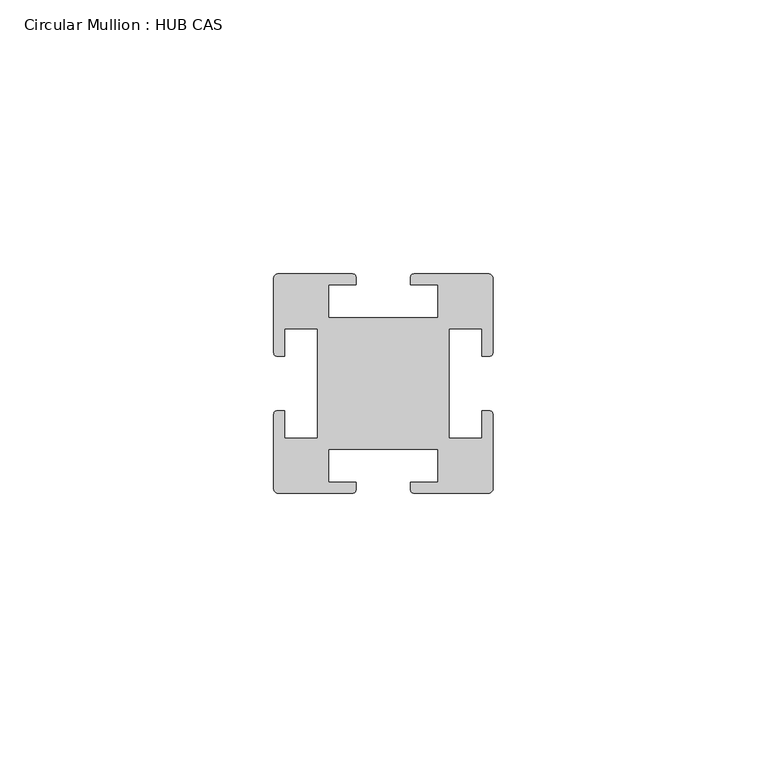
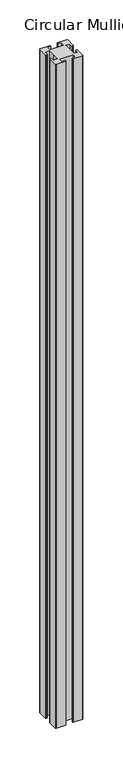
"""IFC4 building model written with IfcOpenShell, lengths in millimetres: member geometry, Circular Mullion : HUB CAS."""

from ifc_helpers import new_model, si_unit, point, frame, frame_2d, origin, place, context, project, spatial, polyline, circle_curve, trimmed, segment, composite_curve, outline, extrude, source, transform, mapped, element, save


def circular_mullion_hub_cas_7fad5990(model_context):
    return source(origin(), model_context, "Body", "SweptSolid", [
        extrude(outline(composite_curve([segment(polyline([(5.601076, 2.0892375), (19.298924, 2.0892375)]), True, "CONTINUOUS"), segment(trimmed(circle_curve(frame_2d((19.298924, 1.3892375)), 0.7), [point((19.298924, 2.0892375))], [point((19.998924, 1.3892375))], False, "CARTESIAN"), True, "CONTINUOUS"), segment(polyline([(19.998924, 1.3892375), (19.998924, -12.3107625)]), True, "CONTINUOUS"), segment(trimmed(circle_curve(frame_2d((19.398924, -12.3107625)), 0.6), [point((19.998924, -12.3107625))], [point((19.398924, -12.9107625))], False, "CARTESIAN"), True, "CONTINUOUS"), segment(polyline([(19.398924, -12.9107625), (17.998924, -12.9107625), (17.998924, -7.9107625), (11.998924, -7.9107625), (11.998924, -17.9107625), (11.998924, -27.9107625), (17.998924, -27.9107625), (17.998924, -22.9107625), (19.398924, -22.9107625)]), True, "CONTINUOUS"), segment(trimmed(circle_curve(frame_2d((19.398924, -23.5107625)), 0.6), [point((19.398924, -22.9107625))], [point((19.998924, -23.5107625))], False, "CARTESIAN"), True, "CONTINUOUS"), segment(polyline([(19.998924, -23.5107625), (19.998924, -37.2107625)]), True, "CONTINUOUS"), segment(trimmed(circle_curve(frame_2d((19.298924, -37.2107625)), 0.7), [point((19.998924, -37.2107625))], [point((19.298924, -37.9107625))], False, "CARTESIAN"), True, "CONTINUOUS"), segment(polyline([(19.298924, -37.9107625), (5.601076, -37.9107625)]), True, "CONTINUOUS"), segment(trimmed(circle_curve(frame_2d((5.601076, -37.3107625)), 0.6), [point((5.601076, -37.9107625))], [point((5.001076, -37.3107625))], False, "CARTESIAN"), True, "CONTINUOUS"), segment(polyline([(5.001076, -37.3107625), (5.001076, -35.910257), (9.998924, -35.910257), (9.998924, -29.9107625), (-9.998924, -29.9107625), (-9.998924, -35.910257), (-5.001076, -35.910257), (-5.001076, -37.3107625)]), True, "CONTINUOUS"), segment(trimmed(circle_curve(frame_2d((-5.601076, -37.3107625)), 0.6), [point((-5.001076, -37.3107625))], [point((-5.601076, -37.9107625))], False, "CARTESIAN"), True, "CONTINUOUS"), segment(polyline([(-5.601076, -37.9107625), (-19.298924, -37.9107625)]), True, "CONTINUOUS"), segment(trimmed(circle_curve(frame_2d((-19.298924, -37.2107625)), 0.7), [point((-19.298924, -37.9107625))], [point((-19.998924, -37.2107625))], False, "CARTESIAN"), True, "CONTINUOUS"), segment(polyline([(-19.998924, -37.2107625), (-19.998924, -23.5107625)]), True, "CONTINUOUS"), segment(trimmed(circle_curve(frame_2d((-19.398924, -23.5107625)), 0.6), [point((-19.998924, -23.5107625))], [point((-19.398924, -22.9107625))], False, "CARTESIAN"), True, "CONTINUOUS"), segment(polyline([(-19.398924, -22.9107625), (-17.998924, -22.9107625), (-17.998924, -27.9107625), (-11.998924, -27.9107625), (-11.998924, -17.9107625), (-11.998924, -7.9107625), (-17.998924, -7.9107625), (-17.998924, -12.9107625), (-19.398924, -12.9107625)]), True, "CONTINUOUS"), segment(trimmed(circle_curve(frame_2d((-19.398924, -12.3107625)), 0.6), [point((-19.398924, -12.9107625))], [point((-19.998924, -12.3107625))], False, "CARTESIAN"), True, "CONTINUOUS"), segment(polyline([(-19.998924, -12.3107625), (-19.998924, 1.3892375)]), True, "CONTINUOUS"), segment(trimmed(circle_curve(frame_2d((-19.298924, 1.3892375)), 0.7), [point((-19.998924, 1.3892375))], [point((-19.298924, 2.0892375))], False, "CARTESIAN"), True, "CONTINUOUS"), segment(polyline([(-19.298924, 2.0892375), (-5.601076, 2.0892375)]), True, "CONTINUOUS"), segment(trimmed(circle_curve(frame_2d((-5.601076, 1.4892375)), 0.6), [point((-5.601076, 2.0892375))], [point((-5.001076, 1.4892375))], False, "CARTESIAN"), True, "CONTINUOUS"), segment(polyline([(-5.001076, 1.4892375), (-5.001076, 0.0887321), (-9.998924, 0.0887321), (-9.998924, -5.9107625), (9.998924, -5.9107625), (9.998924, 0.0887321), (5.001076, 0.0887321), (5.001076, 1.4892375)]), True, "CONTINUOUS"), segment(trimmed(circle_curve(frame_2d((5.601076, 1.4892375)), 0.6), [point((5.001076, 1.4892375))], [point((5.601076, 2.0892375))], False, "CARTESIAN"), True, "CONTINUOUS")], self_intersect=False)), frame((0.0, 0.0, -1020.0010757), z_axis=(0.0, 0.0, 1.0), x_axis=(1.0, 0.0, 0.0)), (0.0, 0.0, 1.0), 1020.0010757),
    ])


if __name__ == "__main__":
    model = new_model("IFC4")
    model_context = context("Model", 3, world=origin())
    ifc_project = project(units=[si_unit("LENGTHUNIT", "METRE", prefix="MILLI")], contexts=[model_context])
    site = spatial("IfcSite", under=ifc_project)
    building = spatial("IfcBuilding", under=site)
    placement = place(None, origin())
    circular_mullion_hub_cas_shape = circular_mullion_hub_cas_7fad5990(model_context)
    element("IfcMember", 1, ObjectType="Circular Mullion : HUB CAS", at=placement, inside=building, context=model_context, shape_type="MappedRepresentation", body=[
        mapped(circular_mullion_hub_cas_shape, transform((0.0, 0.0, 0.0), x_axis=(1.0, 0.0, 0.0), y_axis=(0.0, 1.0, 0.0), z_axis=(0.0, 0.0, 1.0))),
    ])
    save(model, "model.ifc")
